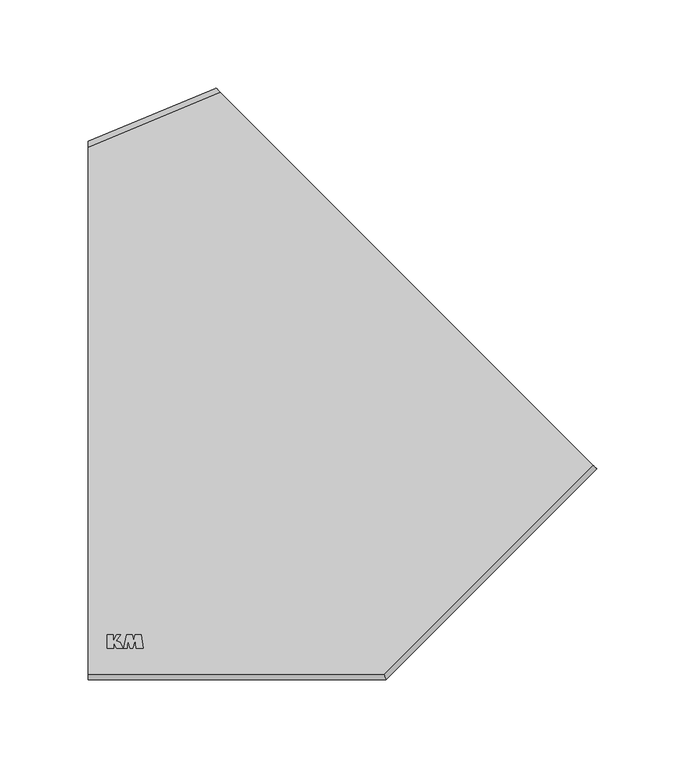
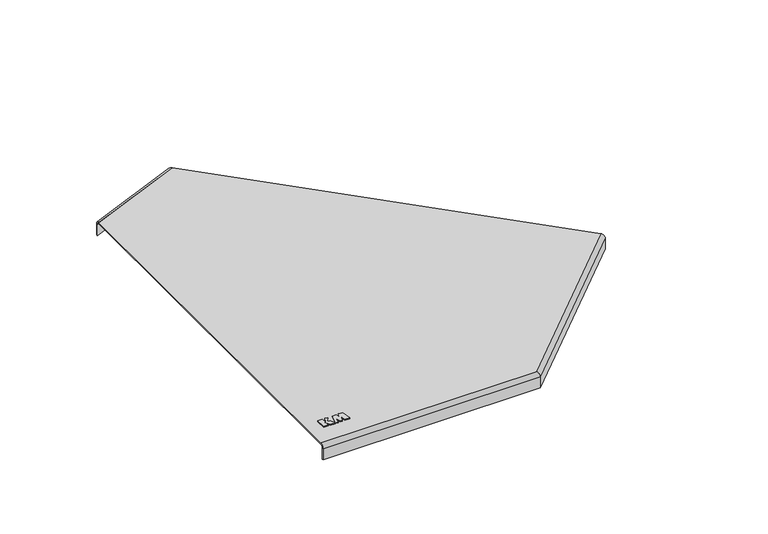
"""IFC4 building model written with IfcOpenShell, lengths in millimetres: cable carrier fitting geometry, КМ Профиль Крышка угла горизонтального KGL45 : Крышка угла горизонтального KGL45."""

from ifc_helpers import new_model, si_unit, frame, origin, place, context, project, spatial, polyline, circle_curve, ellipse_curve, outline, extrude, source, transform, mapped, element, save
from ifc_brep_helpers import plane_surface, cylinder_surface, revolved_surface, advanced_brep


def cable_carrier_fitting_606896c7(model_context):
    return source(origin(), model_context, "Body", "SolidModel", [
        extrude(outline(polyline([(-94.9286902, -126.986157), (-91.4214313, -126.986157), (-91.4214313, -130.564509), (-89.5187878, -126.986157), (-87.3928231, -126.986157), (-89.8593076, -130.5086619), (-87.6175565, -131.194034), (-85.7502474, -134.737421), (-89.6486588, -134.737421), (-91.3528633, -131.5720802), (-91.3528633, -134.737421), (-94.9286902, -134.737421), (-94.9286902, -126.986157)])), frame((0.0, 0.0, 3.0), z_axis=(0.0, 0.0, 1.0), x_axis=(1.0, 0.0, 0.0)), (0.0, 0.0, 1.0), 0.8),
        extrude(outline(polyline([(-83.686088, -134.737421), (-85.5841516, -134.737421), (-83.763871, -126.9647569), (-80.7331425, -126.9647569), (-79.9666418, -130.0390232), (-78.9453343, -126.9623682), (-75.7513795, -126.9623682), (-74.559882, -134.7429915), (-78.4623226, -134.7429915), (-78.9398153, -130.0541919), (-80.4198838, -134.7434681), (-81.8943945, -134.7434681), (-83.3024132, -130.0696135), (-83.686088, -134.737421)])), frame((0.0, 0.0, 3.0), z_axis=(0.0, 0.0, 1.0), x_axis=(1.0, 0.0, 0.0)), (0.0, 0.0, 1.0), 0.8),
        advanced_brep(
        [(-33.0998013, 182.567767, -9.0), (-105.6898121, 152.5, -9.0), (-105.6898121, 152.5, 0.0), (-33.0998013, 182.567767, 0.0), (-105.6898121, 149.2528234, 3.0), (-30.8037007, 180.2716664, 3.0), (-30.8037007, 180.2716664, 2.0), (-105.6898121, 149.2528234, 2.0), (-105.6898121, 151.4176078, 0.0), (-32.3344344, 181.8024001, 0.0), (-105.6898121, 151.4176078, -9.0), (-32.3344344, 181.8024001, -9.0), (180.4464466, -30.978481, 3.0), (-105.6898121, -149.5, 3.0), (61.9249276, -149.5, 3.0), (-105.6898121, -149.5, 2.0), (180.4464466, -30.978481, 2.0), (61.9249276, -149.5, 2.0), (182.567767, -33.0998013, 0.0), (182.567767, -33.0998013, -9.0), (181.8606602, -32.3926945, -9.0), (181.8606602, -32.3926945, 0.0), (-105.6898121, -151.5, 0.0), (-105.6898121, -151.5, -9.0), (-105.6898121, -152.5, -9.0), (-105.6898121, -152.5, 0.0), (63.1675683, -152.5, 0.0), (62.7533547, -151.5, 0.0), (62.7533547, -151.5, -9.0), (63.1675683, -152.5, -9.0)],
        [
            (0, 1),
            (1, 2),
            (2, 3),
            (3, 0),
            (4, 5),
            (5, 3, ellipse_curve(frame((-30.8037007, 180.2716664, 0.0), z_axis=(-0.7071067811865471, -0.7071067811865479, 0.0), x_axis=(0.707106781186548, -0.707106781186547, 0.0)), 3.2471766, 3.0)),
            (2, 4, ellipse_curve(frame((-105.6898121, 149.2528234, 0.0), z_axis=(1.0, 0.0, 0.0), x_axis=(0.0, 1.0, 0.0)), 3.2471766, 3.0)),
            (6, 7),
            (7, 8, ellipse_curve(frame((-105.6898121, 149.2528234, 0.0), z_axis=(-1.0, 0.0, 0.0), x_axis=(0.0, -1.0, 0.0)), 2.1647844, 2.0)),
            (8, 9),
            (9, 6, ellipse_curve(frame((-30.8037007, 180.2716664, 0.0), z_axis=(0.7071067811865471, 0.7071067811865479, 0.0), x_axis=(-0.707106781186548, 0.707106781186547, 0.0)), 2.1647844, 2.0)),
            (8, 10),
            (10, 11),
            (11, 9),
            (0, 11),
            (10, 1),
            (12, 5),
            (4, 13),
            (13, 14),
            (14, 12),
            (15, 7),
            (6, 16),
            (16, 17),
            (17, 15),
            (12, 18, circle_curve(frame((180.4464466, -30.978481, 0.0), z_axis=(0.707106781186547, 0.707106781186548, 0.0), x_axis=(-0.707106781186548, 0.707106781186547, 0.0)), 3.0)),
            (18, 19),
            (19, 20),
            (20, 21),
            (21, 16, circle_curve(frame((180.4464466, -30.978481, 0.0), z_axis=(-0.707106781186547, -0.707106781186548, 0.0), x_axis=(-0.707106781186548, 0.707106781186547, 0.0)), 2.0)),
            (15, 22, circle_curve(frame((-105.6898121, -149.5, 0.0), z_axis=(1.0, 0.0, 0.0), x_axis=(0.0, 1.0, 0.0)), 2.0)),
            (22, 23),
            (23, 24),
            (24, 25),
            (25, 13, circle_curve(frame((-105.6898121, -149.5, 0.0), z_axis=(-1.0, 0.0, 0.0), x_axis=(0.0, 1.0, 0.0)), 3.0)),
            (25, 26),
            (26, 14, ellipse_curve(frame((61.9249276, -149.5, 0.0), z_axis=(-0.9238795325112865, -0.38268343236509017, 0.0), x_axis=(-0.3826834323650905, 0.9238795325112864, 0.0)), 3.2471766, 3.0)),
            (17, 27, ellipse_curve(frame((61.9249276, -149.5, 0.0), z_axis=(0.9238795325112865, 0.38268343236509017, 0.0), x_axis=(0.3826834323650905, -0.9238795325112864, 0.0)), 2.1647844, 2.0)),
            (27, 22),
            (27, 28),
            (28, 23),
            (28, 20),
            (19, 29),
            (29, 24),
            (29, 26),
            (26, 18),
            (21, 27),
        ],
        [
            plane_surface(frame((-31.951751, 183.043305, -9.0), z_axis=(-0.38268343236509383, 0.9238795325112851, 0.0), x_axis=(-0.9238795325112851, -0.38268343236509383, 0.0))),
            cylinder_surface(frame((-30.8037007, 180.2716664, 0.0), z_axis=(0.9238795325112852, 0.3826834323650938, 0.0), x_axis=(0.3826834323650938, -0.9238795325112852, 0.0)), 3.0),
            revolved_surface(polyline([(-105.68981210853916, 147.08803902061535, 0.0), (-29.272966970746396, 178.74093267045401, 0.0)]), (-30.8037007, 180.2716664, 0.0), (-0.9238795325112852, -0.3826834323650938, 0.0)),
            plane_surface(frame((-31.5690676, 182.1194254, 0.0), z_axis=(0.3826834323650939, -0.9238795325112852, 0.0), x_axis=(-0.9238795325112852, -0.3826834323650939, 0.0))),
            plane_surface(frame((-31.5690676, 182.1194254, -9.0), z_axis=(0.0, 0.0, -1.0), x_axis=(-0.9238795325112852, -0.3826834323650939, 0.0))),
            plane_surface(frame((61.9249276, -149.5, 3.0), z_axis=(0.0, 0.0, 1.0), x_axis=(1.0, 0.0, 0.0))),
            plane_surface(frame((61.9249276, -149.5, 2.0), z_axis=(0.0, 0.0, -1.0), x_axis=(-1.0, 0.0, 0.0))),
            plane_surface(frame((180.4464466, -30.978481, 3.0), z_axis=(0.7071067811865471, 0.7071067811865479, 0.0), x_axis=(0.0, 0.0, -1.0))),
            plane_surface(frame((-105.6898121, 149.2528234, 3.0), z_axis=(-1.0, 0.0, 0.0), x_axis=(0.0, 0.0, -1.0))),
            cylinder_surface(frame((-105.6898121, -149.5, 0.0), z_axis=(-1.0, 0.0, 0.0), x_axis=(0.0, 1.0, 0.0)), 3.0),
            revolved_surface(polyline([(62.753354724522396, -147.5, 0.0), (-105.6898121, -147.5, 0.0)]), (-105.6898121, -149.5, 0.0), (1.0, 0.0, 0.0)),
            plane_surface(frame((-105.6898121, -151.5, 0.0), z_axis=(0.0, 1.0, 0.0), x_axis=(1.0, 0.0, 0.0))),
            plane_surface(frame((-105.6898121, -151.5, -9.0), z_axis=(0.0, 0.0, -1.0), x_axis=(1.0, 0.0, 0.0))),
            plane_surface(frame((-105.6898121, -152.5, -9.0), z_axis=(0.0, -1.0, 0.0), x_axis=(1.0, 0.0, 0.0))),
            cylinder_surface(frame((61.0462479, -150.3786797, 0.0), z_axis=(-0.707106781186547, -0.707106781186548, 0.0), x_axis=(-0.707106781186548, 0.707106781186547, 0.0)), 3.0),
            revolved_surface(polyline([(179.03223308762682, -29.564267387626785, 0.0), (59.9249275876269, -148.6715728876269, 0.0)]), (61.0462479, -150.3786797, 0.0), (0.707106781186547, 0.707106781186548, 0.0)),
            plane_surface(frame((62.7533547, -151.5, 0.0), z_axis=(-0.707106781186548, 0.707106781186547, 0.0), x_axis=(0.707106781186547, 0.707106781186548, 0.0))),
            plane_surface(frame((63.1675683, -152.5, -9.0), z_axis=(0.7071067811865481, -0.707106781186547, 0.0), x_axis=(0.707106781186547, 0.7071067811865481, 0.0))),
        ],
        [
            (0, [[1, 2, 3, 4]]),
            (1, [[5, 6, -3, 7]]),
            (2, [[8, 9, 10, 11]]),
            (3, [[-10, 12, 13, 14]]),
            (4, [[-1, 15, -13, 16]]),
            (5, [[17, -5, 18, 19, 20]]),
            (6, [[21, -8, 22, 23, 24]]),
            (7, [[-17, 25, 26, 27, 28, 29, -22, -11, -14, -15, -4, -6]]),
            (8, [[-18, -7, -2, -16, -12, -9, -21, 30, 31, 32, 33, 34]]),
            (9, [[-34, 35, 36, -19]]),
            (10, [[-30, -24, 37, 38]]),
            (11, [[-31, -38, 39, 40]]),
            (12, [[-32, -40, 41, -27, 42, 43]]),
            (13, [[-33, -43, 44, -35]]),
            (14, [[-36, 45, -25, -20]]),
            (15, [[-37, -23, -29, 46]]),
            (16, [[-39, -46, -28, -41]]),
            (17, [[-42, -26, -45, -44]]),
        ],
    ),
    ])


if __name__ == "__main__":
    model = new_model("IFC4")
    model_context = context("Model", 3, world=origin())
    ifc_project = project(units=[si_unit("LENGTHUNIT", "METRE", prefix="MILLI")], contexts=[model_context])
    site = spatial("IfcSite", under=ifc_project)
    building = spatial("IfcBuilding", under=site)
    placement = place(None, origin())
    cable_carrier_fitting_shape = cable_carrier_fitting_606896c7(model_context)
    element("IfcCableCarrierFitting", 1, ObjectType="КМ Профиль Крышка угла горизонтального KGL45 : Крышка угла горизонтального KGL45", at=placement, inside=building, context=model_context, shape_type="MappedRepresentation", body=[
        mapped(cable_carrier_fitting_shape, transform((0.0, 0.0, 0.0), x_axis=(1.0, 0.0, 0.0), y_axis=(0.0, 1.0, 0.0), z_axis=(0.0, 0.0, 1.0))),
    ])
    save(model, "model.ifc")
